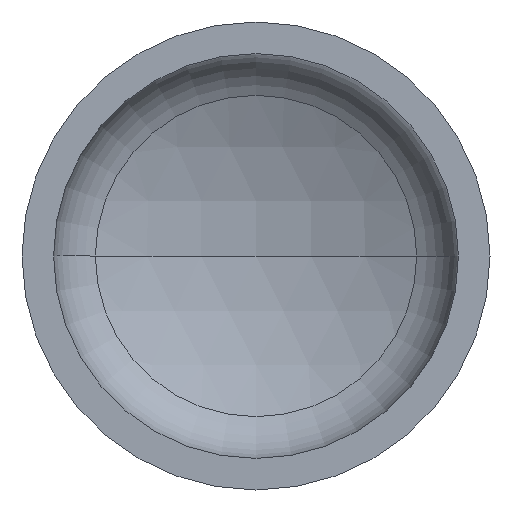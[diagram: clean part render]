
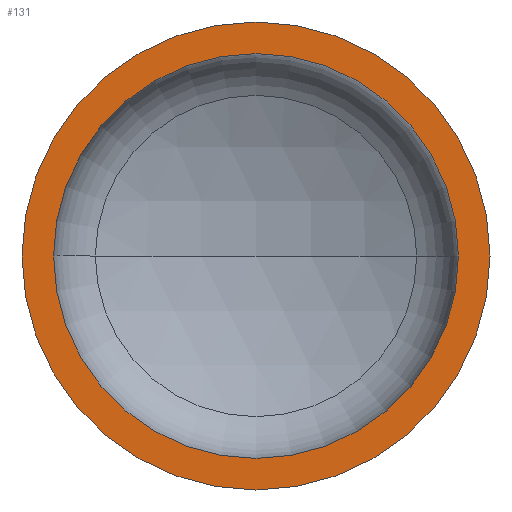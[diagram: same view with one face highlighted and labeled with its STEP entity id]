
A CAD part, front view. The second image highlights one B-rep face of the part: STEP entity #131.
In plain terms, the highlighted planar face has unit normal (0, -1, 0).
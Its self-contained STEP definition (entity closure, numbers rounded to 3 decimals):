
#13 = DIRECTION ( 'NONE',  ( 1., 0., 0. ) ) ;
#14 = DIRECTION ( 'NONE',  ( 0., -1., 0. ) ) ;
#19 = CARTESIAN_POINT ( 'NONE',  ( 0., 0., 0. ) ) ;
#22 = VERTEX_POINT ( 'NONE', #234 ) ;
#43 = VERTEX_POINT ( 'NONE', #51 ) ;
#51 = CARTESIAN_POINT ( 'NONE',  ( 400., 0., 0. ) ) ;
#57 = ORIENTED_EDGE ( 'NONE', *, *, #409, .F. ) ;
#64 = AXIS2_PLACEMENT_3D ( 'NONE', #19, #14, #13 ) ;
#71 = EDGE_LOOP ( 'NONE', ( #57, #77 ) ) ;
#75 = EDGE_LOOP ( 'NONE', ( #107, #303 ) ) ;
#76 = CIRCLE ( 'NONE', #95, 346. ) ;
#77 = ORIENTED_EDGE ( 'NONE', *, *, #232, .F. ) ;
#78 = VERTEX_POINT ( 'NONE', #120 ) ;
#81 = DIRECTION ( 'NONE',  ( 1., 0., 0. ) ) ;
#95 = AXIS2_PLACEMENT_3D ( 'NONE', #116, #108, #328 ) ;
#107 = ORIENTED_EDGE ( 'NONE', *, *, #370, .T. ) ;
#108 = DIRECTION ( 'NONE',  ( 0., -1., 0. ) ) ;
#116 = CARTESIAN_POINT ( 'NONE',  ( 0., 0., 0. ) ) ;
#119 = VERTEX_POINT ( 'NONE', #347 ) ;
#120 = CARTESIAN_POINT ( 'NONE',  ( -400., 0., 0. ) ) ;
#131 = ADVANCED_FACE ( 'NONE', ( #231, #402 ), #344, .F. ) ;
#167 = AXIS2_PLACEMENT_3D ( 'NONE', #342, #249, #246 ) ;
#168 = AXIS2_PLACEMENT_3D ( 'NONE', #333, #173, #353 ) ;
#173 = DIRECTION ( 'NONE',  ( 0., -1., 0. ) ) ;
#191 = AXIS2_PLACEMENT_3D ( 'NONE', #410, #291, #81 ) ;
#231 = FACE_BOUND ( 'NONE', #71, .T. ) ;
#232 = EDGE_CURVE ( 'NONE', #22, #119, #76, .T. ) ;
#234 = CARTESIAN_POINT ( 'NONE',  ( -346., 0., 0. ) ) ;
#246 = DIRECTION ( 'NONE',  ( -1., 0., 0. ) ) ;
#249 = DIRECTION ( 'NONE',  ( 0., 1., 0. ) ) ;
#291 = DIRECTION ( 'NONE',  ( 0., -1., 0. ) ) ;
#294 = CIRCLE ( 'NONE', #168, 400. ) ;
#303 = ORIENTED_EDGE ( 'NONE', *, *, #386, .T. ) ;
#328 = DIRECTION ( 'NONE',  ( 1., 0., 0. ) ) ;
#333 = CARTESIAN_POINT ( 'NONE',  ( 0., 0., 0. ) ) ;
#342 = CARTESIAN_POINT ( 'NONE',  ( -400., 0., 0. ) ) ;
#344 = PLANE ( 'NONE',  #167 ) ;
#347 = CARTESIAN_POINT ( 'NONE',  ( 346., 0., 0. ) ) ;
#353 = DIRECTION ( 'NONE',  ( 1., 0., 0. ) ) ;
#370 = EDGE_CURVE ( 'NONE', #43, #78, #403, .T. ) ;
#386 = EDGE_CURVE ( 'NONE', #78, #43, #294, .T. ) ;
#394 = CIRCLE ( 'NONE', #191, 346. ) ;
#402 = FACE_OUTER_BOUND ( 'NONE', #75, .T. ) ;
#403 = CIRCLE ( 'NONE', #64, 400. ) ;
#409 = EDGE_CURVE ( 'NONE', #119, #22, #394, .T. ) ;
#410 = CARTESIAN_POINT ( 'NONE',  ( 0., 0., 0. ) ) ;
